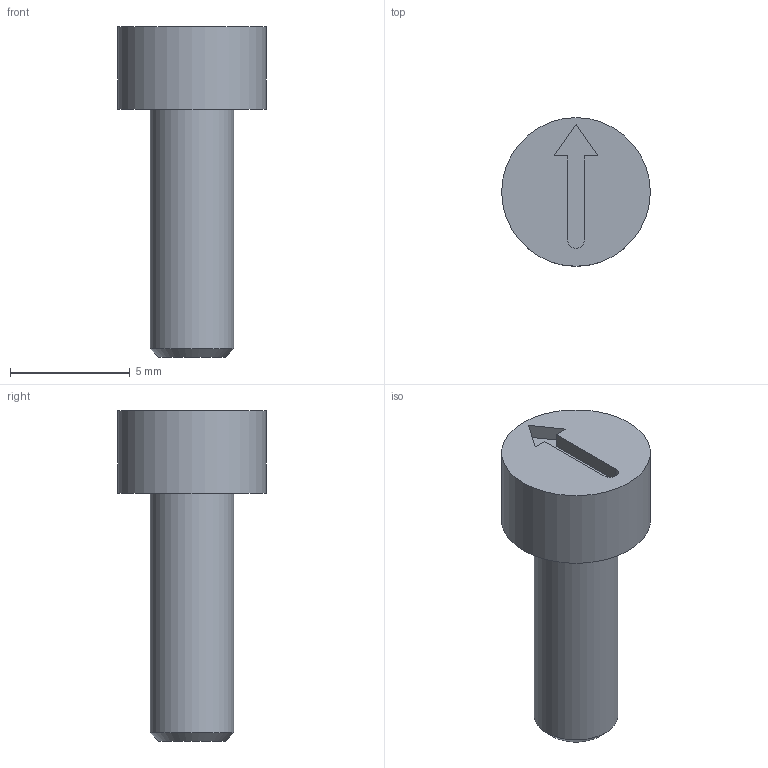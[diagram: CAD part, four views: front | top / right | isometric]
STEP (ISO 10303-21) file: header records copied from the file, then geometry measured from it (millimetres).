
FILE_DESCRIPTION(/* description */ (''),/* implementation_level */ '2;1');
FILE_NAME(/* name */ 'D2300-IB12.step',/* time_stamp */ '2025-06-30T13:32:49+02:00',/* author */ (''),/* organization */ (''),/* preprocessor_version */ 'ST-DEVELOPER v20.1',/* originating_system */ 'Autodesk Translation Framework v14.10.0.0',/* authorisation */ '');
FILE_SCHEMA (('AUTOMOTIVE_DESIGN { 1 0 10303 214 3 1 1 }'));
Length unit declared in the file: millimetre
Products named in the file (1): D2300-IB12
Bounding box: 6.2 x 6.2 x 13.8 mm (x, y, z)
Volume: 200.7 mm3; surface area: 246.3 mm2
Topology: 1 solids, 1 shells, 14 faces, 29 edges, 19 vertices
Faces by surface type: plane 10, cylinder 3, cone 1
Full cylindrical faces by diameter (mm): 3.5 x1, 6.2 x1
Entity records: 405 total; most frequent: DIRECTION 66, CARTESIAN_POINT 63, ORIENTED_EDGE 58, EDGE_CURVE 29, LINE 22, VECTOR 22, AXIS2_PLACEMENT_3D 22, VERTEX_POINT 19
